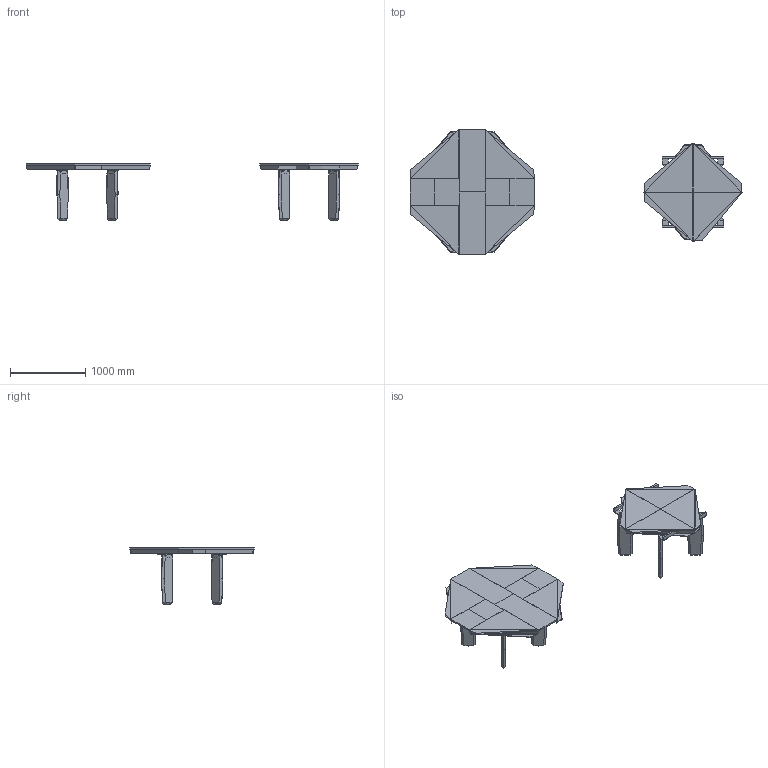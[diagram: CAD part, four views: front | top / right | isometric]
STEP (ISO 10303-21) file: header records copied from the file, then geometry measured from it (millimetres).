
FILE_DESCRIPTION(/* description */ (''),/* implementation_level */ '2;1');
FILE_NAME(/* name */ 'BRIXTON 3D',/* time_stamp */ '2026-06-05T12:19:55+02:00',/* author */ (''),/* organization */ (''),/* preprocessor_version */ 'ST-DEVELOPER v15',/* originating_system */ '',/* authorisation */ '');
FILE_SCHEMA (('CONFIG_CONTROL_DESIGN'));
Length unit declared in the file: millimetre
Products named in the file (2): Document; BRIXTON_gamba_saponetta-sp55_rev0
Assembly tree (4 placements, depth 2):
  Document
    BRIXTON_gamba_saponetta-sp55_rev0  x4
Bounding box: 4403.86 x 1650.04 x 747.91 mm (x, y, z)
Volume: 137330448 mm3; surface area: 12509828.3 mm2
Topology: 50 solids, 50 shells, 1188 faces, 2936 edges, 1846 vertices
Faces by surface type: bspline 888, plane 300
Entity records: 47637 total; most frequent: CARTESIAN_POINT 33753, ORIENTED_EDGE 4404, EDGE_CURVE 2202, B_SPLINE_CURVE_WITH_KNOTS 1552, VERTEX_POINT 1348, EDGE_LOOP 1020, ADVANCED_FACE 948, FACE_OUTER_BOUND 948
